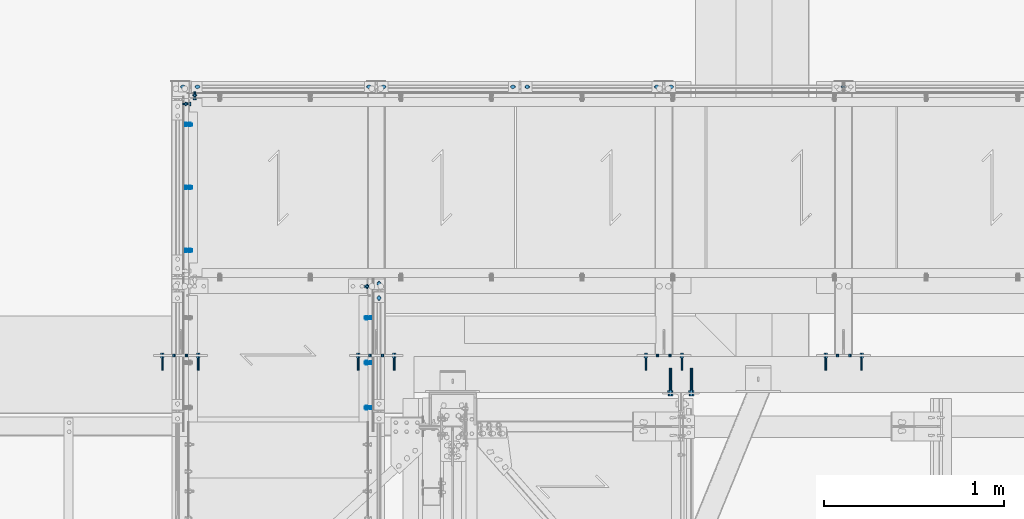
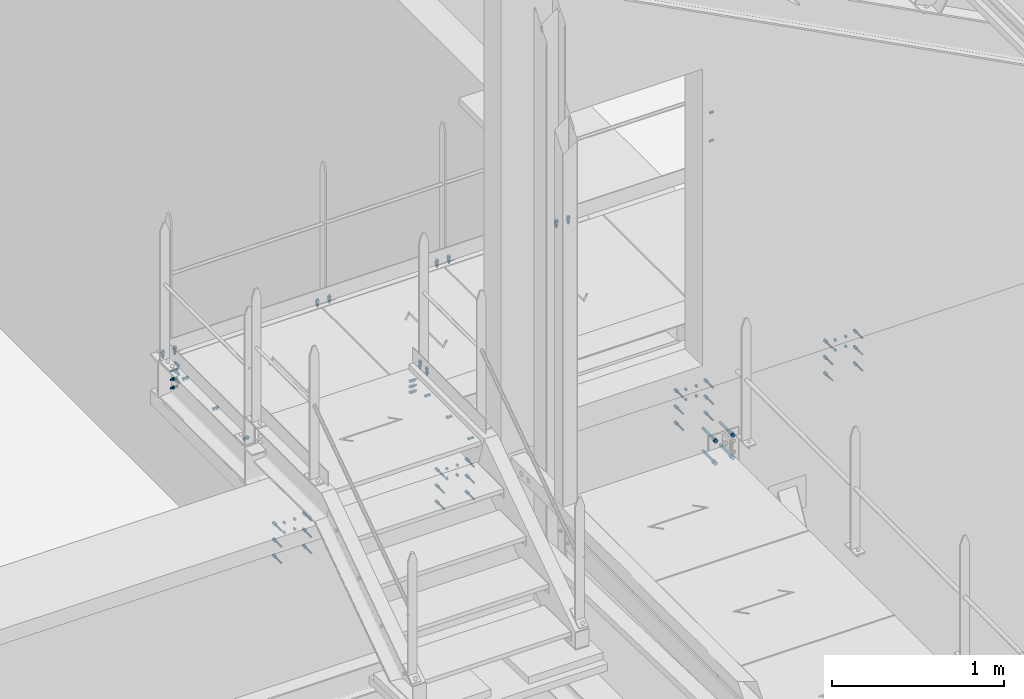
# One storey, part 180 of 362: 21 mechanical fasteners.
"""IFC2X3 building model written with IfcOpenShell, lengths in millimetres."""

from ifc_helpers import new_model, si_unit, frame, frame_2d, origin_with_axes, origin_2d_with_axis, place, context, subcontext, project, spatial, polyline, circle_curve, parameter, trimmed, segment, composite_curve, circle, outline, extrude, source, transform, mapped, material, type_object, element, save


model = new_model("IFC2X3")

# Units and contexts
model_context = context("Model", 3, precision=1e-05, world=origin_with_axes())
body_context = subcontext(model_context, "Body", "Model", "MODEL_VIEW")
ifc_project = project(units=[si_unit("LENGTHUNIT", "METRE", prefix="MILLI"), si_unit("AREAUNIT", "SQUARE_METRE"), si_unit("VOLUMEUNIT", "CUBIC_METRE"), si_unit("MASSUNIT", "GRAM", prefix="KILO"), si_unit("TIMEUNIT", "SECOND"), si_unit("PLANEANGLEUNIT", "RADIAN"), si_unit("SOLIDANGLEUNIT", "STERADIAN"), si_unit("THERMODYNAMICTEMPERATUREUNIT", "DEGREE_CELSIUS"), si_unit("LUMINOUSINTENSITYUNIT", "LUMEN")], contexts=[model_context])

# Site, building, storey
site_placement = place(None, origin_with_axes())
site = spatial("IfcSite", under=ifc_project, at=site_placement, Name="Undefined", CompositionType="ELEMENT")
building_placement = place(site_placement, origin_with_axes())
building = spatial("IfcBuilding", under=site, at=building_placement, Name="Undefined", CompositionType="ELEMENT")
storey_placement = place(building_placement, origin_with_axes())
storey = spatial("IfcBuildingStorey", under=building, at=storey_placement, Name="Undefined", CompositionType="ELEMENT", Elevation=0.0)

# Mechanical fasteners
ifc_material_1 = material(Name="6.8")
mechanical_fastener_type = type_object("IfcMechanicalFastenerType", Name="Bolt assembly")
shared_shape_1 = source(origin_with_axes(), body_context, "Body", "SweptSolid", [
    extrude(circle(Radius=7.0, at=origin_2d_with_axis()), frame((0.0, -12.0, 0.0), z_axis=(0.0, 1.0, 0.0), x_axis=(1.0, 0.0, 0.0)), (0.0, 0.0, 1.0), 12.1),
])
for number, where, z_axis, x_axis, name in (
    (1, (12255.0007605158, 15589.99984642, 8355.0), (1.0, 0.0, 0.0), (0.0, 0.0, 1.0), "Bolt assembly"),
    (2, (14855.0007605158, 15589.99984642, 8355.0), (1.0, 0.0, 0.0), (0.0, 0.0, 1.0), "Bolt assembly"),
    (3, (13855.0007605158, 15589.99984642, 8355.0), (1.0, 0.0, 0.0), (0.0, 0.0, 1.0), "Bolt assembly"),
    (4, (11165.0007605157, 15590.0, 8355.0), (1.0, 0.0, 0.0), (0.0, 0.0, 1.0), "Bolt assembly"),
):
    element("IfcMechanicalFastener", number, at=place(storey_placement, frame(where, z_axis=z_axis, x_axis=x_axis)), inside=storey, type_object=mechanical_fastener_type, material=ifc_material_1, Name=name, NominalDiameter=12.0, NominalLength=12.0, context=body_context, shape_type="MappedRepresentation", body=[
        mapped(shared_shape_1, transform((0.0, 0.0, -35.0))),
        mapped(shared_shape_1, transform((70.0, 0.0, -35.0))),
        mapped(shared_shape_1, transform((0.0, 0.0, 35.0))),
        mapped(shared_shape_1, transform((70.0, 0.0, 35.0))),
    ])
ifc_material_2 = material(Name="HILTI-HSA-R")
shared_shape_2 = source(origin_with_axes(), body_context, "Body", "SweptSolid", [
    extrude(circle(Radius=7.0, at=origin_2d_with_axis()), frame((0.0, -12.0, 0.0), z_axis=(0.0, 1.0, 0.0), x_axis=(1.0, 0.0, 0.0)), (0.0, 0.0, 1.0), 12.1),
    extrude(outline(polyline([(10.39230484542, 0.0), (5.19615242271, 9.00000000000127), (-5.19615242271, 9.00000000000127), (-10.39230484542, 0.0), (-5.19615242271, -9.00000000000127), (5.19615242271, -9.00000000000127), (10.39230484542, 0.0)])), frame((0.0, -19.92, 0.0), z_axis=(0.0, 1.0, 0.0), x_axis=(1.0, 0.0, 0.0)), (0.0, 0.0, 1.0), 7.92),
    extrude(circle(Radius=6.0, at=origin_2d_with_axis()), frame((0.0, -12.0, 0.0), z_axis=(0.0, 1.0, 0.0), x_axis=(1.0, 0.0, 0.0)), (0.0, 0.0, 1.0), 89.2),
    extrude(outline(polyline([(11.5008173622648, 0.0), (5.7504086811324, 9.96000000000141), (-5.7504086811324, 9.96000000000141), (-11.5008173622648, 0.0), (-5.7504086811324, -9.96000000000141), (5.7504086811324, -9.96000000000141), (11.5008173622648, 0.0)])), frame((0.0, 0.0, 0.0), z_axis=(0.0, 1.0, 0.0), x_axis=(1.0, 0.0, 0.0)), (0.0, 0.0, 1.0), 7.92),
])
for number, where, z_axis, x_axis, name in (
    (5, (12255.0007605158, 15589.99984642, 8210.0), (1.0, 0.0, 0.0), (0.0, 0.0, 1.0), "Bolt assembly"),
    (6, (14855.0007605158, 15589.99984642, 8210.0), (1.0, 0.0, 0.0), (0.0, 0.0, 1.0), "Bolt assembly"),
    (7, (13855.0007605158, 15589.99984642, 8210.0), (1.0, 0.0, 0.0), (0.0, 0.0, 1.0), "Bolt assembly"),
    (8, (11165.0007605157, 15590.0, 8210.0), (1.0, 0.0, 0.0), (0.0, 0.0, 1.0), "Bolt assembly"),
):
    element("IfcMechanicalFastener", number, at=place(storey_placement, frame(where, z_axis=z_axis, x_axis=x_axis)), inside=storey, type_object=mechanical_fastener_type, material=ifc_material_2, Name=name, NominalDiameter=12.0, NominalLength=89.1999969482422, context=body_context, shape_type="MappedRepresentation", body=[
        mapped(shared_shape_2, transform((0.0, 0.0, -100.0))),
        mapped(shared_shape_2, transform((115.0, 0.0, -100.0))),
        mapped(shared_shape_2, transform((230.0, 0.0, -100.0))),
        mapped(shared_shape_2, transform((0.0, 0.0, 100.0))),
        mapped(shared_shape_2, transform((115.0, 0.0, 100.0))),
        mapped(shared_shape_2, transform((230.0, 0.0, 100.0))),
    ])
shared_shape_3 = source(origin_with_axes(), body_context, "Body", "SweptSolid", [
    extrude(circle(Radius=5.0, at=origin_2d_with_axis()), frame((0.0, -4.90000000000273, 0.0), z_axis=(0.0, 1.0, 0.0), x_axis=(1.0, 0.0, 0.0)), (0.0, 0.0, 1.0), 5.0),
    extrude(circle(Radius=5.0, at=origin_2d_with_axis()), frame((0.0, -0.100011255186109, 0.0), z_axis=(0.0, 1.0, 0.0), x_axis=(1.0, 0.0, 0.0)), (0.0, 0.0, 1.0), 5.1),
    extrude(outline(polyline([(7.50555349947, 0.0), (3.752776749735, 6.50000000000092), (-3.752776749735, 6.50000000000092), (-7.50555349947, 0.0), (-3.752776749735, -6.50000000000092), (3.752776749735, -6.50000000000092), (7.50555349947, 0.0)])), frame((0.0, -10.5000000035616, 0.0), z_axis=(0.0, 1.0, 0.0), x_axis=(1.0, 0.0, 0.0)), (0.0, 0.0, 1.0), 5.5),
    extrude(circle(Radius=4.0, at=origin_2d_with_axis()), frame((0.0, -5.00000000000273, 0.0), z_axis=(0.0, 1.0, 0.0), x_axis=(1.0, 0.0, 0.0)), (0.0, 0.0, 1.0), 20.0),
    extrude(outline(polyline([(7.50555349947, 0.0), (3.752776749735, 6.50000000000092), (-3.752776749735, 6.50000000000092), (-7.50555349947, 0.0), (-3.752776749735, -6.50000000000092), (3.752776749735, -6.50000000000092), (7.50555349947, 0.0)])), frame((0.0, 5.0, 0.0), z_axis=(0.0, 1.0, 0.0), x_axis=(1.0, 0.0, 0.0)), (0.0, 0.0, 1.0), 6.8),
])
mechanical_fastener_1_placement = place(storey_placement, frame((14854.9961849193, 17089.9938659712, 9118.80000001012), z_axis=(0.0, 1.0, 0.0), x_axis=(0.0, 0.0, -1.0)))
element("IfcMechanicalFastener", 9, at=mechanical_fastener_1_placement, inside=storey, type_object=mechanical_fastener_type, material=ifc_material_1, Name="Bolt assembly", NominalDiameter=8.0, NominalLength=20.0, context=body_context, shape_type="MappedRepresentation", body=[
    mapped(shared_shape_3, transform((0.0, 0.0, 0.0))),
    mapped(shared_shape_3, transform((200.0, 0.0, 0.0))),
])
ifc_material_3 = material(Name="8.8-SB-GALVA")
shared_shape_4 = source(origin_with_axes(), body_context, "Body", "SweptSolid", [
    extrude(circle(Radius=7.0, at=origin_2d_with_axis()), frame((0.0, -0.100259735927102, 0.0), z_axis=(0.0, 1.0, 0.0), x_axis=(1.0, 0.0, 0.0)), (0.0, 0.0, 1.0), 12.9),
    extrude(outline(composite_curve([segment(polyline([(-7.0, 7.0), (7.0, 7.0)]), True, "CONTINUOUS"), segment(trimmed(circle_curve(frame_2d((7.0, 0.0), x_axis=(0.0, 1.0)), 7.0), [parameter(0.0)], [parameter(3.14159265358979)], False, "PARAMETER"), True, "CONTINUOUS"), segment(polyline([(7.0, -7.0), (-7.0, -7.0)]), True, "CONTINUOUS"), segment(trimmed(circle_curve(frame_2d((-7.0, 0.0), x_axis=(0.0, -1.0)), 7.0), [parameter(0.0)], [parameter(3.14159265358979)], False, "PARAMETER"), True, "DISCONTINUOUS")], self_intersect=False)), frame((0.0, -9.9, 0.0), z_axis=(0.0, 1.0, 0.0), x_axis=(1.0, 0.0, 0.0)), (0.0, 0.0, 1.0), 10.0),
    extrude(outline(polyline([(10.39230484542, 0.0), (5.19615242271, 9.00000000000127), (-5.19615242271, 9.00000000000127), (-10.39230484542, 0.0), (-5.19615242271, -9.00000000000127), (5.19615242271, -9.00000000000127), (10.39230484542, 0.0)])), frame((0.0, -21.88, 0.0), z_axis=(0.0, 1.0, 0.0), x_axis=(1.0, 0.0, 0.0)), (0.0, 0.0, 1.0), 7.92),
    extrude(circle(Radius=6.0, at=origin_2d_with_axis()), frame((0.0, -13.96, 0.0), z_axis=(0.0, 1.0, 0.0), x_axis=(1.0, 0.0, 0.0)), (0.0, 0.0, 1.0), 50.0),
    extrude(circle(Radius=10.8, at=origin_2d_with_axis()), frame((0.0, -13.96, 0.0), z_axis=(0.0, 1.0, 0.0), x_axis=(1.0, 0.0, 0.0)), (0.0, 0.0, 1.0), 3.96),
    extrude(outline(polyline([(11.5008173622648, 0.0), (5.7504086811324, 9.96000000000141), (-5.7504086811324, 9.96000000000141), (-11.5008173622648, 0.0), (-5.7504086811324, -9.96000000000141), (5.7504086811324, -9.96000000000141), (11.5008173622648, 0.0)])), frame((0.0, 12.7999834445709, 0.0), z_axis=(0.0, 1.0, 0.0), x_axis=(1.0, 0.0, 0.0)), (0.0, 0.0, 1.0), 7.92),
])
mechanical_fastener_2_placement = place(storey_placement, frame((13015.0023796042, 17089.9938659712, 8700.00000001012), z_axis=(0.0, 1.0, 0.0), x_axis=(1.0, 0.0, 0.0)))
element("IfcMechanicalFastener", 10, at=mechanical_fastener_2_placement, inside=storey, type_object=mechanical_fastener_type, material=ifc_material_3, Name="Bolt assembly", NominalDiameter=12.0, NominalLength=50.0, context=body_context, shape_type="MappedRepresentation", body=[
    mapped(shared_shape_4, transform((0.0, 0.0, 0.0))),
    mapped(shared_shape_4, transform((80.0, 0.0, 0.0))),
])
shared_shape_5 = source(origin_with_axes(), body_context, "Body", "SweptSolid", [
    extrude(circle(Radius=7.0, at=origin_2d_with_axis()), frame((0.0, -0.100385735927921, 0.0), z_axis=(0.0, 1.0, 0.0), x_axis=(1.0, 0.0, 0.0)), (0.0, 0.0, 1.0), 12.9),
    extrude(outline(composite_curve([segment(polyline([(-7.0, 7.0), (7.0, 7.0)]), True, "CONTINUOUS"), segment(trimmed(circle_curve(frame_2d((7.0, 0.0), x_axis=(0.0, 1.0)), 7.0), [parameter(0.0)], [parameter(3.14159265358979)], False, "PARAMETER"), True, "CONTINUOUS"), segment(polyline([(7.0, -7.0), (-7.0, -7.0)]), True, "CONTINUOUS"), segment(trimmed(circle_curve(frame_2d((-7.0, 0.0), x_axis=(0.0, -1.0)), 7.0), [parameter(0.0)], [parameter(3.14159265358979)], False, "PARAMETER"), True, "DISCONTINUOUS")], self_intersect=False)), frame((0.0, -9.9, 0.0), z_axis=(0.0, 1.0, 0.0), x_axis=(1.0, 0.0, 0.0)), (0.0, 0.0, 1.0), 10.0),
    extrude(outline(polyline([(10.39230484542, 0.0), (5.19615242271, 9.00000000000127), (-5.19615242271, 9.00000000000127), (-10.39230484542, 0.0), (-5.19615242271, -9.00000000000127), (5.19615242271, -9.00000000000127), (10.39230484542, 0.0)])), frame((0.0, -21.88, 0.0), z_axis=(0.0, 1.0, 0.0), x_axis=(1.0, 0.0, 0.0)), (0.0, 0.0, 1.0), 7.92),
    extrude(circle(Radius=6.0, at=origin_2d_with_axis()), frame((0.0, -13.96, 0.0), z_axis=(0.0, 1.0, 0.0), x_axis=(1.0, 0.0, 0.0)), (0.0, 0.0, 1.0), 50.0),
    extrude(circle(Radius=10.8, at=origin_2d_with_axis()), frame((0.0, -13.96, 0.0), z_axis=(0.0, 1.0, 0.0), x_axis=(1.0, 0.0, 0.0)), (0.0, 0.0, 1.0), 3.96),
    extrude(outline(polyline([(11.5008173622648, 0.0), (5.7504086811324, 9.96000000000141), (-5.7504086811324, 9.96000000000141), (-11.5008173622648, 0.0), (-5.7504086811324, -9.96000000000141), (5.7504086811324, -9.96000000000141), (11.5008173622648, 0.0)])), frame((0.0, 12.7999834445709, 0.0), z_axis=(0.0, 1.0, 0.0), x_axis=(1.0, 0.0, 0.0)), (0.0, 0.0, 1.0), 7.92),
])
mechanical_fastener_3_placement = place(storey_placement, frame((13815.0023796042, 17089.9938659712, 8700.00000001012), z_axis=(0.0, 1.0, 0.0), x_axis=(1.0, 0.0, 0.0)))
element("IfcMechanicalFastener", 11, at=mechanical_fastener_3_placement, inside=storey, type_object=mechanical_fastener_type, material=ifc_material_3, Name="Bolt assembly", NominalDiameter=12.0, NominalLength=50.0, context=body_context, shape_type="MappedRepresentation", body=[
    mapped(shared_shape_5, transform((0.0, 0.0, 0.0))),
    mapped(shared_shape_5, transform((80.0, 0.0, 0.0))),
])
shared_shape_6 = source(origin_with_axes(), body_context, "Body", "SweptSolid", [
    extrude(circle(Radius=7.0, at=origin_2d_with_axis()), frame((0.0, -0.100011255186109, 0.0), z_axis=(0.0, 1.0, 0.0), x_axis=(1.0, 0.0, 0.0)), (0.0, 0.0, 1.0), 12.9),
    extrude(outline(composite_curve([segment(polyline([(-7.0, 7.0), (7.0, 7.0)]), True, "CONTINUOUS"), segment(trimmed(circle_curve(frame_2d((7.0, 0.0), x_axis=(0.0, 1.0)), 7.0), [parameter(0.0)], [parameter(3.14159265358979)], False, "PARAMETER"), True, "CONTINUOUS"), segment(polyline([(7.0, -7.0), (-7.0, -7.0)]), True, "CONTINUOUS"), segment(trimmed(circle_curve(frame_2d((-7.0, 0.0), x_axis=(0.0, -1.0)), 7.0), [parameter(0.0)], [parameter(3.14159265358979)], False, "PARAMETER"), True, "DISCONTINUOUS")], self_intersect=False)), frame((0.0, -9.9, 0.0), z_axis=(0.0, 1.0, 0.0), x_axis=(1.0, 0.0, 0.0)), (0.0, 0.0, 1.0), 10.0),
    extrude(outline(polyline([(10.39230484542, 0.0), (5.19615242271, 9.00000000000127), (-5.19615242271, 9.00000000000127), (-10.39230484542, 0.0), (-5.19615242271, -9.00000000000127), (5.19615242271, -9.00000000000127), (10.39230484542, 0.0)])), frame((0.0, -21.88, 0.0), z_axis=(0.0, 1.0, 0.0), x_axis=(1.0, 0.0, 0.0)), (0.0, 0.0, 1.0), 7.92),
    extrude(circle(Radius=6.0, at=origin_2d_with_axis()), frame((0.0, -13.96, 0.0), z_axis=(0.0, 1.0, 0.0), x_axis=(1.0, 0.0, 0.0)), (0.0, 0.0, 1.0), 50.0),
    extrude(circle(Radius=10.8, at=origin_2d_with_axis()), frame((0.0, -13.96, 0.0), z_axis=(0.0, 1.0, 0.0), x_axis=(1.0, 0.0, 0.0)), (0.0, 0.0, 1.0), 3.96),
    extrude(outline(polyline([(11.5008173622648, 0.0), (5.7504086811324, 9.96000000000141), (-5.7504086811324, 9.96000000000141), (-11.5008173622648, 0.0), (-5.7504086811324, -9.96000000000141), (5.7504086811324, -9.96000000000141), (11.5008173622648, 0.0)])), frame((0.0, 12.7999834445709, 0.0), z_axis=(0.0, 1.0, 0.0), x_axis=(1.0, 0.0, 0.0)), (0.0, 0.0, 1.0), 7.92),
])
mechanical_fastener_4_placement = place(storey_placement, frame((11180.0061849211, 17089.9938659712, 8700.00001258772), z_axis=(0.0, 1.0, 0.0), x_axis=(1.0, 0.0, 0.0)))
element("IfcMechanicalFastener", 12, at=mechanical_fastener_4_placement, inside=storey, type_object=mechanical_fastener_type, material=ifc_material_3, Name="Bolt assembly", NominalDiameter=12.0, NominalLength=50.0, context=body_context, shape_type="MappedRepresentation", body=[
    mapped(shared_shape_6, transform((0.0, 0.0, 0.0))),
    mapped(shared_shape_6, transform((80.0, 0.0, 0.0))),
])
shared_shape_7 = source(origin_with_axes(), body_context, "Body", "SweptSolid", [
    extrude(circle(Radius=7.0, at=origin_2d_with_axis()), frame((0.0, -0.100155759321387, 0.0), z_axis=(0.0, 1.0, 0.0), x_axis=(1.0, 0.0, 0.0)), (0.0, 0.0, 1.0), 12.9),
    extrude(outline(composite_curve([segment(polyline([(-7.0, 7.0), (7.0, 7.0)]), True, "CONTINUOUS"), segment(trimmed(circle_curve(frame_2d((7.0, 0.0), x_axis=(0.0, 1.0)), 7.0), [parameter(0.0)], [parameter(3.14159265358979)], False, "PARAMETER"), True, "CONTINUOUS"), segment(polyline([(7.0, -7.0), (-7.0, -7.0)]), True, "CONTINUOUS"), segment(trimmed(circle_curve(frame_2d((-7.0, 0.0), x_axis=(0.0, -1.0)), 7.0), [parameter(0.0)], [parameter(3.14159265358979)], False, "PARAMETER"), True, "DISCONTINUOUS")], self_intersect=False)), frame((0.0, -9.9, 0.0), z_axis=(0.0, 1.0, 0.0), x_axis=(1.0, 0.0, 0.0)), (0.0, 0.0, 1.0), 10.0),
    extrude(outline(polyline([(10.39230484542, 0.0), (5.19615242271, 9.00000000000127), (-5.19615242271, 9.00000000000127), (-10.39230484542, 0.0), (-5.19615242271, -9.00000000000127), (5.19615242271, -9.00000000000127), (10.39230484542, 0.0)])), frame((0.0, -21.88, 0.0), z_axis=(0.0, 1.0, 0.0), x_axis=(1.0, 0.0, 0.0)), (0.0, 0.0, 1.0), 7.92),
    extrude(circle(Radius=6.0, at=origin_2d_with_axis()), frame((0.0, -13.96, 0.0), z_axis=(0.0, 1.0, 0.0), x_axis=(1.0, 0.0, 0.0)), (0.0, 0.0, 1.0), 50.0),
    extrude(circle(Radius=10.8, at=origin_2d_with_axis()), frame((0.0, -13.96, 0.0), z_axis=(0.0, 1.0, 0.0), x_axis=(1.0, 0.0, 0.0)), (0.0, 0.0, 1.0), 3.96),
    extrude(outline(polyline([(11.5008173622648, 0.0), (5.7504086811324, 9.96000000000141), (-5.7504086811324, 9.96000000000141), (-11.5008173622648, 0.0), (-5.7504086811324, -9.96000000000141), (5.7504086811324, -9.96000000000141), (11.5008173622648, 0.0)])), frame((0.0, 12.7999834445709, 0.0), z_axis=(0.0, 1.0, 0.0), x_axis=(1.0, 0.0, 0.0)), (0.0, 0.0, 1.0), 7.92),
])
mechanical_fastener_5_placement = place(storey_placement, frame((12215.0023796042, 17089.9938659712, 8700.00000001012), z_axis=(0.0, 1.0, 0.0), x_axis=(1.0, 0.0, 0.0)))
element("IfcMechanicalFastener", 13, at=mechanical_fastener_5_placement, inside=storey, type_object=mechanical_fastener_type, material=ifc_material_3, Name="Bolt assembly", NominalDiameter=12.0, NominalLength=50.0, context=body_context, shape_type="MappedRepresentation", body=[
    mapped(shared_shape_7, transform((0.0, 0.0, 0.0))),
    mapped(shared_shape_7, transform((80.0, 0.0, 0.0))),
])
shared_shape_8 = source(origin_with_axes(), body_context, "Body", "SweptSolid", [
    extrude(circle(Radius=7.0, at=origin_2d_with_axis()), frame((0.0, -0.100011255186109, 0.0), z_axis=(0.0, 1.0, 0.0), x_axis=(1.0, 0.0, 0.0)), (0.0, 0.0, 1.0), 12.9),
    extrude(outline(composite_curve([segment(polyline([(-7.0, 7.0), (7.0, 7.0)]), True, "CONTINUOUS"), segment(trimmed(circle_curve(frame_2d((7.0, 0.0), x_axis=(0.0, 1.0)), 7.0), [parameter(0.0)], [parameter(3.14159265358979)], False, "PARAMETER"), True, "CONTINUOUS"), segment(polyline([(7.0, -7.0), (-7.0, -7.0)]), True, "CONTINUOUS"), segment(trimmed(circle_curve(frame_2d((-7.0, 0.0), x_axis=(0.0, -1.0)), 7.0), [parameter(0.0)], [parameter(3.14159265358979)], False, "PARAMETER"), True, "DISCONTINUOUS")], self_intersect=False)), frame((0.0, -9.9, 0.0), z_axis=(0.0, 1.0, 0.0), x_axis=(1.0, 0.0, 0.0)), (0.0, 0.0, 1.0), 10.0),
    extrude(outline(polyline([(10.39230484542, 0.0), (5.19615242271, 9.00000000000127), (-5.19615242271, 9.00000000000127), (-10.39230484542, 0.0), (-5.19615242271, -9.00000000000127), (5.19615242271, -9.00000000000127), (10.39230484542, 0.0)])), frame((0.0, -21.88, 0.0), z_axis=(0.0, 1.0, 0.0), x_axis=(1.0, 0.0, 0.0)), (0.0, 0.0, 1.0), 7.92),
    extrude(circle(Radius=6.0, at=origin_2d_with_axis()), frame((0.0, -13.96, 0.0), z_axis=(0.0, 1.0, 0.0), x_axis=(1.0, 0.0, 0.0)), (0.0, 0.0, 1.0), 50.0),
    extrude(circle(Radius=10.8, at=origin_2d_with_axis()), frame((0.0, -13.96, 0.0), z_axis=(0.0, 1.0, 0.0), x_axis=(1.0, 0.0, 0.0)), (0.0, 0.0, 1.0), 3.96),
    extrude(outline(polyline([(11.5008173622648, 0.0), (5.7504086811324, 9.96000000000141), (-5.7504086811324, 9.96000000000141), (-11.5008173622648, 0.0), (-5.7504086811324, -9.96000000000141), (5.7504086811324, -9.96000000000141), (11.5008173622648, 0.0)])), frame((0.0, 12.8009436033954, 0.0), z_axis=(0.0, 1.0, 0.0), x_axis=(1.0, 0.0, 0.0)), (0.0, 0.0, 1.0), 7.92),
])
mechanical_fastener_6_placement = place(storey_placement, frame((12269.9936634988, 15914.9996531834, 8910.0), z_axis=(-1.0, 0.0, 0.0), x_axis=(0.0, 1.0, 0.0)))
element("IfcMechanicalFastener", 14, at=mechanical_fastener_6_placement, inside=storey, type_object=mechanical_fastener_type, material=ifc_material_3, Name="Bolt assembly", NominalDiameter=12.0, NominalLength=50.0, context=body_context, shape_type="MappedRepresentation", body=[
    mapped(shared_shape_8, transform((0.0, 0.0, 0.0))),
    mapped(shared_shape_8, transform((80.0, 0.0, 0.0))),
])
shared_shape_9 = source(origin_with_axes(), body_context, "Body", "SweptSolid", [
    extrude(circle(Radius=7.0, at=origin_2d_with_axis()), frame((0.0, -14.9176290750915, 0.0), z_axis=(0.0, 1.0, 0.0), x_axis=(1.0, 0.0, 0.0)), (0.0, 0.0, 1.0), 10.0),
    extrude(circle(Radius=7.0, at=origin_2d_with_axis()), frame((0.0, -5.09380520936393, 0.0), z_axis=(0.0, 1.0, 0.0), x_axis=(1.0, 0.0, 0.0)), (0.0, 0.0, 1.0), 5.1),
    extrude(outline(polyline([(10.39230484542, 0.0), (5.19615242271, 9.00000000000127), (-5.19615242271, 9.00000000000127), (-10.39230484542, 0.0), (-5.19615242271, -9.00000000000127), (5.19615242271, -9.00000000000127), (10.39230484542, 0.0)])), frame((0.0, -22.9376290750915, 0.0), z_axis=(0.0, 1.0, 0.0), x_axis=(1.0, 0.0, 0.0)), (0.0, 0.0, 1.0), 7.92),
    extrude(circle(Radius=6.0, at=origin_2d_with_axis()), frame((0.0, -15.0176290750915, 0.0), z_axis=(0.0, 1.0, 0.0), x_axis=(1.0, 0.0, 0.0)), (0.0, 0.0, 1.0), 30.0),
    extrude(outline(polyline([(11.5008173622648, 0.0), (5.7504086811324, 9.96000000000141), (-5.7504086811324, 9.96000000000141), (-11.5008173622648, 0.0), (-5.7504086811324, -9.96000000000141), (5.7504086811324, -9.96000000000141), (11.5008173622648, 0.0)])), frame((0.0, 0.00619479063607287, 0.0), z_axis=(0.0, 1.0, 0.0), x_axis=(1.0, 0.0, 0.0)), (0.0, 0.0, 1.0), 7.92),
])
mechanical_fastener_7_placement = place(storey_placement, frame((12204.9876275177, 15555.0058468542, 8820.0), z_axis=(0.0, -1.0, 0.0), x_axis=(0.0, 0.0, 1.0)))
element("IfcMechanicalFastener", 15, at=mechanical_fastener_7_placement, inside=storey, type_object=mechanical_fastener_type, material=ifc_material_3, Name="Bolt assembly", NominalDiameter=12.0, NominalLength=30.0, context=body_context, shape_type="MappedRepresentation", body=[
    mapped(shared_shape_9, transform((0.0, 0.0, -250.0))),
    mapped(shared_shape_9, transform((0.0, 0.0, 0.0))),
    mapped(shared_shape_9, transform((0.0, 0.0, 250.0))),
])
shared_shape_10 = source(origin_with_axes(), body_context, "Body", "SweptSolid", [
    extrude(circle(Radius=7.0, at=origin_2d_with_axis()), frame((0.0, -0.0962673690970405, 0.0), z_axis=(0.0, 1.0, 0.0), x_axis=(1.0, 0.0, 0.0)), (0.0, 0.0, 1.0), 10.1),
    extrude(outline(composite_curve([segment(polyline([(7.0, 7.0), (7.0, -7.0)]), True, "CONTINUOUS"), segment(trimmed(circle_curve(frame_2d((0.0, -7.0), x_axis=(1.0, 0.0)), 7.0), [parameter(0.0)], [parameter(3.14159265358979)], False, "PARAMETER"), True, "CONTINUOUS"), segment(polyline([(-7.0, -7.0), (-7.0, 7.0)]), True, "CONTINUOUS"), segment(trimmed(circle_curve(frame_2d((0.0, 7.0), x_axis=(-1.0, 0.0)), 7.0), [parameter(0.0)], [parameter(3.14159265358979)], False, "PARAMETER"), True, "DISCONTINUOUS")], self_intersect=False)), frame((0.0, -7.9, 0.0), z_axis=(0.0, 1.0, 0.0), x_axis=(1.0, 0.0, 0.0)), (0.0, 0.0, 1.0), 8.0),
    extrude(outline(polyline([(10.39230484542, 0.0), (5.19615242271, 9.00000000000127), (-5.19615242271, 9.00000000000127), (-10.39230484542, 0.0), (-5.19615242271, -9.00000000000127), (5.19615242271, -9.00000000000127), (10.39230484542, 0.0)])), frame((0.0, -19.88, 0.0), z_axis=(0.0, 1.0, 0.0), x_axis=(1.0, 0.0, 0.0)), (0.0, 0.0, 1.0), 7.92),
    extrude(circle(Radius=6.0, at=origin_2d_with_axis()), frame((0.0, -11.96, 0.0), z_axis=(0.0, 1.0, 0.0), x_axis=(1.0, 0.0, 0.0)), (0.0, 0.0, 1.0), 40.0),
    extrude(circle(Radius=10.8, at=origin_2d_with_axis()), frame((0.0, -11.96, 0.0), z_axis=(0.0, 1.0, 0.0), x_axis=(1.0, 0.0, 0.0)), (0.0, 0.0, 1.0), 3.96),
    extrude(outline(polyline([(11.5008173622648, 0.0), (5.7504086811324, 9.96000000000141), (-5.7504086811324, 9.96000000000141), (-11.5008173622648, 0.0), (-5.7504086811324, -9.96000000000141), (5.7504086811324, -9.96000000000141), (11.5008173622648, 0.0)])), frame((0.0, 10.0037326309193, 0.0), z_axis=(0.0, 1.0, 0.0), x_axis=(1.0, 0.0, 0.0)), (0.0, 0.0, 1.0), 7.92),
])
mechanical_fastener_8_placement = place(storey_placement, frame((12210.0018452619, 15980.0058471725, 8820.0), z_axis=(0.0, -1.0, 0.0), x_axis=(0.0, 0.0, -1.0)))
element("IfcMechanicalFastener", 16, at=mechanical_fastener_8_placement, inside=storey, type_object=mechanical_fastener_type, material=ifc_material_3, Name="Bolt assembly", NominalDiameter=12.0, NominalLength=40.0, context=body_context, shape_type="MappedRepresentation", body=[
    mapped(shared_shape_10, transform((0.0, 0.0, 0.0))),
    mapped(shared_shape_10, transform((40.0, 0.0, 0.0))),
    mapped(shared_shape_10, transform((80.0, 0.0, 0.0))),
])
shared_shape_11 = source(origin_with_axes(), body_context, "Body", "SweptSolid", [
    extrude(circle(Radius=7.0, at=origin_2d_with_axis()), frame((0.0, -14.8947102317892, 0.0), z_axis=(0.0, 1.0, 0.0), x_axis=(1.0, 0.0, 0.0)), (0.0, 0.0, 1.0), 10.0),
    extrude(circle(Radius=7.0, at=origin_2d_with_axis()), frame((0.0, -5.09380520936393, 0.0), z_axis=(0.0, 1.0, 0.0), x_axis=(1.0, 0.0, 0.0)), (0.0, 0.0, 1.0), 5.1),
    extrude(outline(polyline([(10.39230484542, 0.0), (5.19615242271, 9.00000000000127), (-5.19615242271, 9.00000000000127), (-10.39230484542, 0.0), (-5.19615242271, -9.00000000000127), (5.19615242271, -9.00000000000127), (10.39230484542, 0.0)])), frame((0.0, -22.9147102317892, 0.0), z_axis=(0.0, 1.0, 0.0), x_axis=(1.0, 0.0, 0.0)), (0.0, 0.0, 1.0), 7.92),
    extrude(circle(Radius=6.0, at=origin_2d_with_axis()), frame((0.0, -14.9947102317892, 0.0), z_axis=(0.0, 1.0, 0.0), x_axis=(1.0, 0.0, 0.0)), (0.0, 0.0, 1.0), 30.0),
    extrude(outline(polyline([(11.5008173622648, 0.0), (5.7504086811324, 9.96000000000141), (-5.7504086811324, 9.96000000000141), (-11.5008173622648, 0.0), (-5.7504086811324, -9.96000000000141), (5.7504086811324, -9.96000000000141), (11.5008173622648, 0.0)])), frame((0.0, 0.00619479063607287, 0.0), z_axis=(0.0, 1.0, 0.0), x_axis=(1.0, 0.0, 0.0)), (0.0, 0.0, 1.0), 7.92),
])
mechanical_fastener_9_placement = place(storey_placement, frame((11214.9999903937, 16529.9935804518, 8640.0), z_axis=(0.0, 1.0, 0.0), x_axis=(0.0, 0.0, 1.0)))
element("IfcMechanicalFastener", 17, at=mechanical_fastener_9_placement, inside=storey, type_object=mechanical_fastener_type, material=ifc_material_3, Name="Bolt assembly", NominalDiameter=12.0, NominalLength=30.0, context=body_context, shape_type="MappedRepresentation", body=[
    mapped(shared_shape_11, transform((0.0, 0.0, -350.0))),
    mapped(shared_shape_11, transform((0.0, 0.0, 0.0))),
    mapped(shared_shape_11, transform((0.0, 0.0, 350.0))),
])
shared_shape_12 = source(origin_with_axes(), body_context, "Body", "SweptSolid", [
    extrude(circle(Radius=7.0, at=origin_2d_with_axis()), frame((0.0, -0.0940093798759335, 0.0), z_axis=(0.0, 1.0, 0.0), x_axis=(1.0, 0.0, 0.0)), (0.0, 0.0, 1.0), 10.1),
    extrude(circle(Radius=7.0, at=origin_2d_with_axis()), frame((0.0, -5.8999542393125, 0.0), z_axis=(0.0, 1.0, 0.0), x_axis=(1.0, 0.0, 0.0)), (0.0, 0.0, 1.0), 6.0),
    extrude(outline(polyline([(10.39230484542, 0.0), (5.19615242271, 9.00000000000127), (-5.19615242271, 9.00000000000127), (-10.39230484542, 0.0), (-5.19615242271, -9.00000000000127), (5.19615242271, -9.00000000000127), (10.39230484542, 0.0)])), frame((0.0, -13.9199542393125, 0.0), z_axis=(0.0, 1.0, 0.0), x_axis=(1.0, 0.0, 0.0)), (0.0, 0.0, 1.0), 7.92),
    extrude(circle(Radius=6.0, at=origin_2d_with_axis()), frame((0.0, -5.9999542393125, 0.0), z_axis=(0.0, 1.0, 0.0), x_axis=(1.0, 0.0, 0.0)), (0.0, 0.0, 1.0), 40.0),
    extrude(outline(polyline([(11.5008173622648, 0.0), (5.7504086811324, 9.96000000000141), (-5.7504086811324, 9.96000000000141), (-11.5008173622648, 0.0), (-5.7504086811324, -9.96000000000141), (5.7504086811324, -9.96000000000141), (11.5008173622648, 0.0)])), frame((0.0, 10.0059906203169, 0.0), z_axis=(0.0, 1.0, 0.0), x_axis=(1.0, 0.0, 0.0)), (0.0, 0.0, 1.0), 7.92),
])
mechanical_fastener_10_placement = place(storey_placement, frame((11210.0061851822, 16994.9935807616, 8570.0), z_axis=(0.0, 0.0, 1.0), x_axis=(0.0, 1.0, 0.0)))
element("IfcMechanicalFastener", 18, at=mechanical_fastener_10_placement, inside=storey, type_object=mechanical_fastener_type, material=ifc_material_3, Name="Bolt assembly", NominalDiameter=12.0, NominalLength=40.0, context=body_context, shape_type="MappedRepresentation", body=[
    mapped(shared_shape_12, transform((0.0, 0.0, -60.0))),
    mapped(shared_shape_12, transform((0.0, 0.0, 0.0))),
    mapped(shared_shape_12, transform((0.0, 0.0, 60.0))),
])
shared_shape_13 = source(origin_with_axes(), body_context, "Body", "SweptSolid", [
    extrude(circle(Radius=7.0, at=origin_2d_with_axis()), frame((0.0, -0.0997388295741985, 0.0), z_axis=(0.0, 1.0, 0.0), x_axis=(1.0, 0.0, 0.0)), (0.0, 0.0, 1.0), 10.1),
    extrude(circle(Radius=7.0, at=origin_2d_with_axis()), frame((0.0, -5.8999542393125, 0.0), z_axis=(0.0, 1.0, 0.0), x_axis=(1.0, 0.0, 0.0)), (0.0, 0.0, 1.0), 6.0),
    extrude(outline(polyline([(10.39230484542, 0.0), (5.19615242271, 9.00000000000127), (-5.19615242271, 9.00000000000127), (-10.39230484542, 0.0), (-5.19615242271, -9.00000000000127), (5.19615242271, -9.00000000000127), (10.39230484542, 0.0)])), frame((0.0, -13.9199542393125, 0.0), z_axis=(0.0, 1.0, 0.0), x_axis=(1.0, 0.0, 0.0)), (0.0, 0.0, 1.0), 7.92),
    extrude(circle(Radius=6.0, at=origin_2d_with_axis()), frame((0.0, -5.9999542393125, 0.0), z_axis=(0.0, 1.0, 0.0), x_axis=(1.0, 0.0, 0.0)), (0.0, 0.0, 1.0), 40.0),
    extrude(outline(polyline([(11.5008173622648, 0.0), (5.7504086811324, 9.96000000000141), (-5.7504086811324, 9.96000000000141), (-11.5008173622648, 0.0), (-5.7504086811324, -9.96000000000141), (5.7504086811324, -9.96000000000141), (11.5008173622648, 0.0)])), frame((0.0, 10.0002611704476, 0.0), z_axis=(0.0, 1.0, 0.0), x_axis=(1.0, 0.0, 0.0)), (0.0, 0.0, 1.0), 7.92),
])
mechanical_fastener_11_placement = place(storey_placement, frame((11245.0061851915, 17029.9935807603, 8570.0), z_axis=(0.0, 0.0, -1.0), x_axis=(-1.0, 0.0, 0.0)))
element("IfcMechanicalFastener", 19, at=mechanical_fastener_11_placement, inside=storey, type_object=mechanical_fastener_type, material=ifc_material_3, Name="Bolt assembly", NominalDiameter=12.0, NominalLength=40.0, context=body_context, shape_type="MappedRepresentation", body=[
    mapped(shared_shape_13, transform((0.0, 0.0, -60.0))),
    mapped(shared_shape_13, transform((0.0, 0.0, 0.0))),
    mapped(shared_shape_13, transform((0.0, 0.0, 60.0))),
])
ifc_material_4 = material(Name="HILTI-HST-R")
shared_shape_14 = source(origin_with_axes(), body_context, "Body", "SweptSolid", [
    extrude(circle(Radius=9.0, at=origin_2d_with_axis()), frame((0.0, -9.99987141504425, 0.0), z_axis=(0.0, 1.0, 0.0), x_axis=(1.0, 0.0, 0.0)), (0.0, 0.0, 1.0), 10.1),
    extrude(outline(polyline([(13.85640646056, 0.0), (6.92820323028, 12.0000000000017), (-6.92820323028, 12.0000000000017), (-13.85640646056, 0.0), (-6.92820323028, -12.0000000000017), (6.92820323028, -12.0000000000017), (13.85640646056, 0.0)])), frame((0.0, -20.559881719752, 0.0), z_axis=(0.0, 1.0, 0.0), x_axis=(1.0, 0.0, 0.0)), (0.0, 0.0, 1.0), 10.56),
    extrude(circle(Radius=8.0, at=origin_2d_with_axis()), frame((0.0, -9.99987141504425, 0.0), z_axis=(0.0, 1.0, 0.0), x_axis=(1.0, 0.0, 0.0)), (0.0, 0.0, 1.0), 146.2),
    extrude(outline(polyline([(15.3344231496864, 0.0), (7.6672115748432, 13.2800000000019), (-7.6672115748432, 13.2800000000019), (-15.3344231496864, 0.0), (-7.6672115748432, -13.2800000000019), (7.6672115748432, -13.2800000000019), (15.3344231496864, 0.0)])), frame((0.0, 0.000125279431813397, 0.0), z_axis=(0.0, 1.0, 0.0), x_axis=(1.0, 0.0, 0.0)), (0.0, 0.0, 1.0), 10.56),
])
for number, where, z_axis, x_axis, name in (
    (20, (13891.4998855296, 15389.9998770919, 8090.00437165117), (0.0, 0.0, 1.0), (1.0, 0.0, 0.0), "Bolt assembly"),
    (21, (14007.4998855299, 15389.9998771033, 8090.00437165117), (0.0, 0.0, -1.0), (-1.0, 0.0, 0.0), "Bolt assembly"),
):
    element("IfcMechanicalFastener", number, at=place(storey_placement, frame(where, z_axis=z_axis, x_axis=x_axis)), inside=storey, type_object=mechanical_fastener_type, material=ifc_material_4, Name=name, NominalDiameter=16.0, NominalLength=146.199996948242, context=body_context, shape_type="MappedRepresentation", body=[
        mapped(shared_shape_14, transform((0.0, 0.0, -80.0))),
        mapped(shared_shape_14, transform((0.0, 0.0, 80.0))),
    ])

save(model, "model.ifc")
